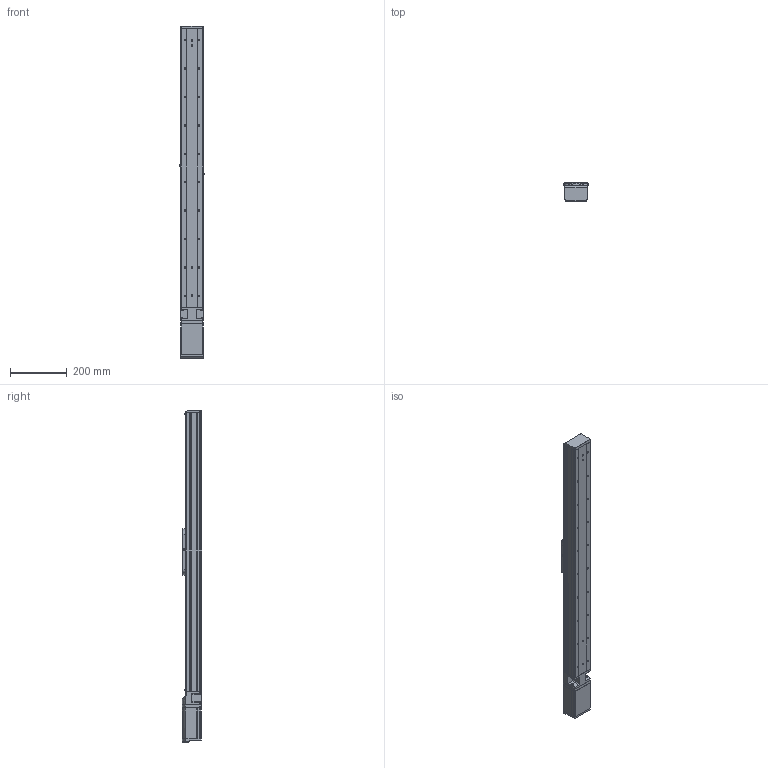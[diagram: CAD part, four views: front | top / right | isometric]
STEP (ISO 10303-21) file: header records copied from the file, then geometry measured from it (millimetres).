
FILE_DESCRIPTION (( 'STEP AP203' ), '1' );
FILE_NAME ('GERC80-800-FD-DX.STEP', '2020-04-28T04:31:55', ( '' ), ( '' ), 'SwSTEP 2.0', 'SolidWorks 2019', '' );
FILE_SCHEMA (( 'CONFIG_CONTROL_DESIGN' ));
Length unit declared in the file: millimetre
Products named in the file (3): Group1^GERC80-800-FD-DX_defeature_GMT; Group2^GERC80-800-FD-DX_defeature_GMT; GERC80-800-FD-DX
Assembly tree (2 placements, depth 2):
  GERC80-800-FD-DX
    Group1^GERC80-800-FD-DX_defeature_GMT
    Group2^GERC80-800-FD-DX_defeature_GMT
Bounding box: 90 x 67.5 x 1169 mm (x, y, z)
Volume: 2920668.4 mm3; surface area: 842118.5 mm2
Topology: 30 solids, 30 shells, 3431 faces, 9183 edges, 5748 vertices
Faces by surface type: plane 1149, cylinder 1053, cone 782, bspline 191, torus 170, sphere 86
Entity records: 132178 total; most frequent: CARTESIAN_POINT 46878, DIRECTION 18268, ORIENTED_EDGE 18052, EDGE_CURVE 9026, AXIS2_PLACEMENT_3D 7057, VERTEX_POINT 5678, VECTOR 4154, LINE 4154
